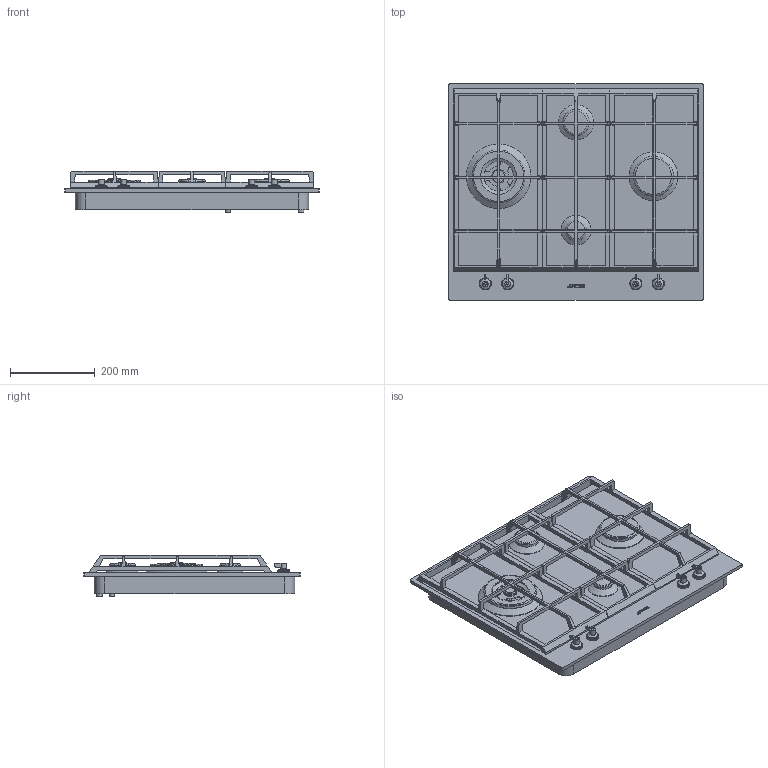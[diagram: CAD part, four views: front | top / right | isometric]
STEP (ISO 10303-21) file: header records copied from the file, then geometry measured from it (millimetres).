
FILE_DESCRIPTION(/* description */ (''),/* implementation_level */ '2;1');
FILE_NAME(/* name */ 'piano px364l.stp',/* time_stamp */ '2018-07-31T13:38:44+02:00',/* author */ (''),/* organization */ (''),/* preprocessor_version */ 'ST-DEVELOPER v16',/* originating_system */ 'SIEMENS PLM Software NX 11.0',/* authorisation */ '');
FILE_SCHEMA (('AUTOMOTIVE_DESIGN { 1 0 10303 214 3 1 1 1 }'));
Length unit declared in the file: millimetre
Products named in the file (1): gobb99643FE8pxv6
Bounding box: 600 x 510 x 97.78 mm (x, y, z)
Volume: 12889465.1 mm3; surface area: 1758146.5 mm2
Topology: 33 solids, 33 shells, 572 faces, 1425 edges, 910 vertices
Faces by surface type: plane 373, cylinder 153, torus 17, cone 12, extrusion 11, sphere 6
Full cylindrical faces by diameter (mm): 3.37 x6, 6 x16, 8 x4, 10 x1, 13.5 x4, 14 x2, 23 x5, 23.5 x1, 26 x1, 27 x4, 28 x1, 29 x4, 30 x4, 32 x1, 42 x1, 43 x1, 55 x1, 56 x1, 70.5 x1, 79.5 x1, 83 x1, 85 x1, 87 x1, 88 x1, 89.5 x1, 90 x1, 98.5 x1, 106.5 x1, 111 x1, 113.5 x1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
Entity records: 16664 total; most frequent: CARTESIAN_POINT 3059, DIRECTION 2743, ORIENTED_EDGE 2588, EDGE_CURVE 1294, VECTOR 945, LINE 934, AXIS2_PLACEMENT_3D 899, VERTEX_POINT 889
